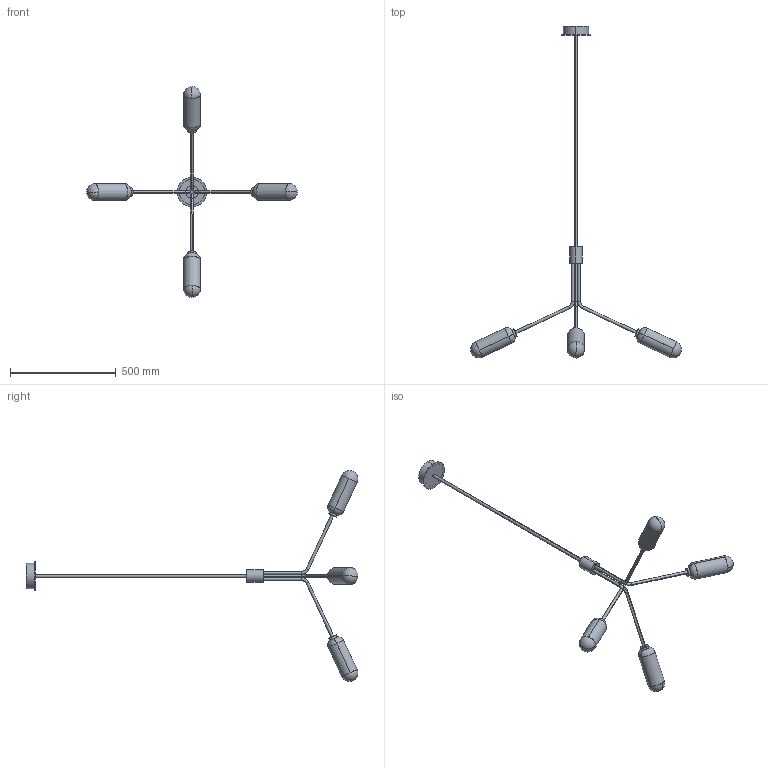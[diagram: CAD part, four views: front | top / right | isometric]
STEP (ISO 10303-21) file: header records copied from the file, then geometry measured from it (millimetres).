
FILE_DESCRIPTION (( 'STEP AP214' ), '1' );
FILE_NAME ('LARI_C1333_4.STEP', '2024-09-18T08:53:00', ( '' ), ( '' ), 'SwSTEP 2.0', 'SolidWorks 2018', '' );
FILE_SCHEMA (( 'AUTOMOTIVE_DESIGN' ));
Length unit declared in the file: millimetre
Products named in the file (1): LARI_C1333_4
Bounding box: 997.82 x 1569.78 x 997.82 mm (x, y, z)
Volume: 2685665.5 mm3; surface area: 791744.1 mm2
Topology: 20 solids, 24 shells, 136 faces, 256 edges, 152 vertices
Faces by surface type: cylinder 56, plane 40, torus 24, sphere 16
Entity records: 5049 total; most frequent: DIRECTION 698, CARTESIAN_POINT 529, ORIENTED_EDGE 480, AXIS2_PLACEMENT_3D 321, EDGE_CURVE 240, CIRCLE 184, UNCERTAINTY_MEASURE_WITH_UNIT 158, STYLED_ITEM 157
